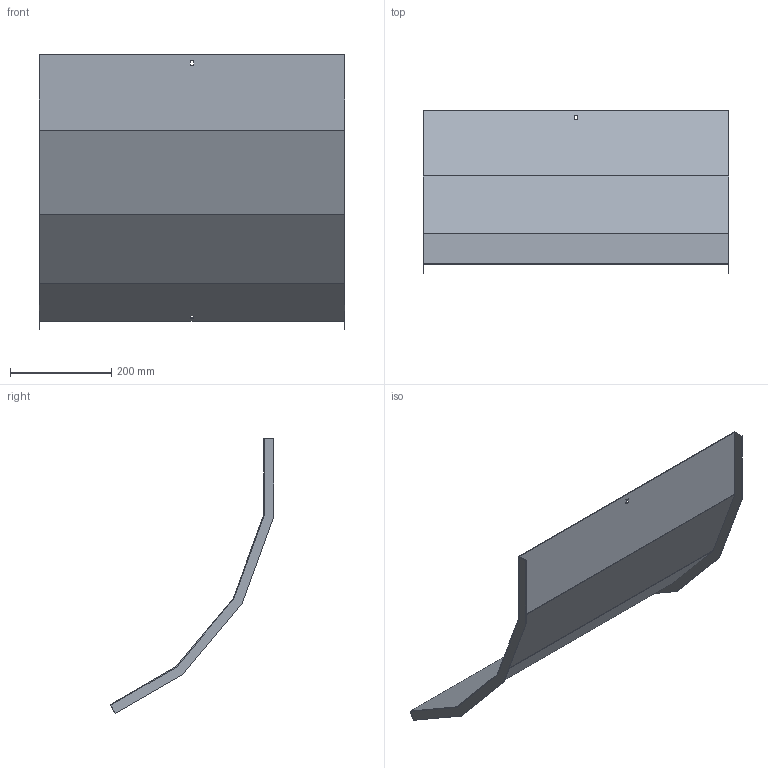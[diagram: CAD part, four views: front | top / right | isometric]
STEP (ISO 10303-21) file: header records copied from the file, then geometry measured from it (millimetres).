
FILE_DESCRIPTION (( 'STEP AP214' ), '1' );
FILE_NAME ('A2X40N5R600X.step', '2025-03-20T09:44:11', ( '' ), ( '' ), 'SwSTEP 2.0', 'SolidWorks 2023', '' );
FILE_SCHEMA (( 'AUTOMOTIVE_DESIGN' ));
Length unit declared in the file: millimetre
Products named in the file (1): A2X40N5R600X
Bounding box: 603 x 322.96 x 542.06 mm (x, y, z)
Volume: 626517.4 mm3; surface area: 839384.8 mm2
Topology: 1 solids, 1 shells, 30 faces, 84 edges, 56 vertices
Faces by surface type: plane 30
Entity records: 979 total; most frequent: CARTESIAN_POINT 171, ORIENTED_EDGE 168, DIRECTION 146, EDGE_CURVE 84, LINE 84, VECTOR 84, VERTEX_POINT 56, EDGE_LOOP 34
